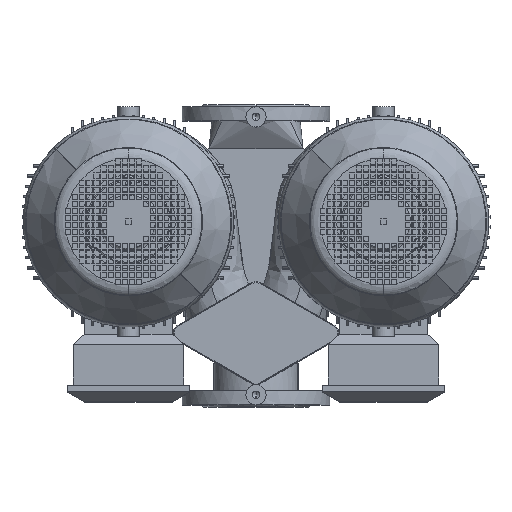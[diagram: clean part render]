
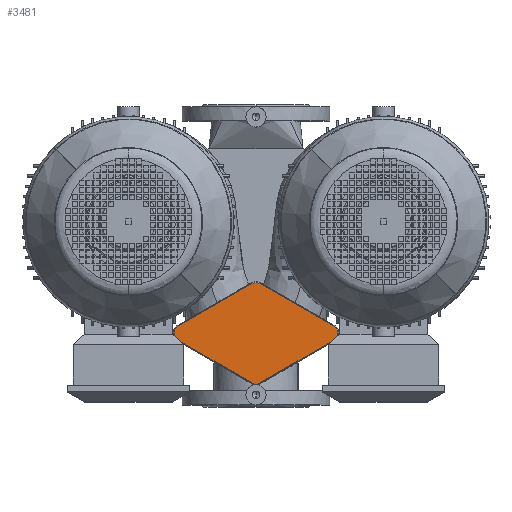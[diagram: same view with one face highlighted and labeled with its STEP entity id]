
A CAD part, top view. The second image highlights one B-rep face of the part: STEP entity #3481.
In plain terms, the highlighted planar face has unit normal (0, 0, 1).
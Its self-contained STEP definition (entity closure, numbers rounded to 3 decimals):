
#3481=ADVANCED_FACE('',(#8903),#8904,.T.);
#8903=FACE_OUTER_BOUND('',#19520,.T.);
#8904=PLANE('',#19521);
#19520=EDGE_LOOP('',(#30785,#30786,#30787,#30788,#30789,#30790,#30791,#30792,#30793,#30794,#30795,#30796));
#19521=AXIS2_PLACEMENT_3D('',#30797,#30798,#30799);
#30785=ORIENTED_EDGE('',*,*,#47523,.F.);
#30786=ORIENTED_EDGE('',*,*,#48237,.F.);
#30787=ORIENTED_EDGE('',*,*,#48224,.F.);
#30788=ORIENTED_EDGE('',*,*,#47534,.F.);
#30789=ORIENTED_EDGE('',*,*,#47538,.F.);
#30790=ORIENTED_EDGE('',*,*,#48220,.F.);
#30791=ORIENTED_EDGE('',*,*,#47544,.F.);
#30792=ORIENTED_EDGE('',*,*,#47548,.F.);
#30793=ORIENTED_EDGE('',*,*,#48216,.F.);
#30794=ORIENTED_EDGE('',*,*,#47553,.F.);
#30795=ORIENTED_EDGE('',*,*,#47527,.F.);
#30796=ORIENTED_EDGE('',*,*,#48235,.F.);
#30797=CARTESIAN_POINT('',(7.,240.124,65.0));
#30798=DIRECTION('',(0.0,0.0,1.0));
#30799=DIRECTION('',(1.0,0.0,0.0));
#47523=EDGE_CURVE('',#54098,#54100,#54101,.T.);
#47527=EDGE_CURVE('',#54104,#54107,#54108,.T.);
#47534=EDGE_CURVE('',#54118,#54120,#54121,.T.);
#47538=EDGE_CURVE('',#54124,#54118,#54127,.T.);
#47544=EDGE_CURVE('',#54135,#54137,#54138,.T.);
#47548=EDGE_CURVE('',#54141,#54135,#54144,.T.);
#47553=EDGE_CURVE('',#54107,#54151,#54152,.T.);
#48216=EDGE_CURVE('',#54151,#54141,#55056,.T.);
#48220=EDGE_CURVE('',#54137,#54124,#55060,.T.);
#48224=EDGE_CURVE('',#54120,#55064,#55065,.T.);
#48235=EDGE_CURVE('',#54100,#54104,#55079,.T.);
#48237=EDGE_CURVE('',#55064,#54098,#55081,.T.);
#54098=VERTEX_POINT('',#63650);
#54100=VERTEX_POINT('',#63663);
#54101=LINE('',#63664,#63665);
#54104=VERTEX_POINT('',#63668);
#54107=VERTEX_POINT('',#63671);
#54108=CIRCLE('',#63672,12.5);
#54118=VERTEX_POINT('',#63683);
#54120=VERTEX_POINT('',#63685);
#54121=LINE('',#63686,#63687);
#54124=VERTEX_POINT('',#63699);
#54127=CIRCLE('',#63702,12.5);
#54135=VERTEX_POINT('',#63711);
#54137=VERTEX_POINT('',#63713);
#54138=LINE('',#63714,#63715);
#54141=VERTEX_POINT('',#63718);
#54144=CIRCLE('',#63721,12.5);
#54151=VERTEX_POINT('',#63729);
#54152=LINE('',#63730,#63731);
#55056=CIRCLE('',#66497,12.5);
#55060=CIRCLE('',#66501,12.5);
#55064=VERTEX_POINT('',#66514);
#55065=CIRCLE('',#66515,14.0);
#55079=CIRCLE('',#66533,12.5);
#55081=CIRCLE('',#66535,14.0);
#63650=CARTESIAN_POINT('',(0.79,241.978,65.0));
#63663=CARTESIAN_POINT('',(115.25,175.894,65.0));
#63664=CARTESIAN_POINT('',(6.25,238.825,65.0));
#63665=VECTOR('',#82610,1.0);
#63668=CARTESIAN_POINT('',(121.5,165.069,65.0));
#63671=CARTESIAN_POINT('',(115.25,154.244,65.0));
#63672=AXIS2_PLACEMENT_3D('',#82617,#82618,#82619);
#63683=CARTESIAN_POINT('',(-115.25,175.894,65.0));
#63685=CARTESIAN_POINT('',(-0.79,241.978,65.0));
#63686=CARTESIAN_POINT('',(-55.5,210.391,65.0));
#63687=VECTOR('',#82633,1.);
#63699=CARTESIAN_POINT('',(-121.5,165.069,65.0));
#63702=AXIS2_PLACEMENT_3D('',#82637,#82638,#82639);
#63711=CARTESIAN_POINT('',(-6.25,91.312,65.0));
#63713=CARTESIAN_POINT('',(-115.25,154.244,65.0));
#63714=CARTESIAN_POINT('',(-33.5,107.045,65.0));
#63715=VECTOR('',#82650,1.);
#63718=CARTESIAN_POINT('',(0.,89.638,65.0));
#63721=AXIS2_PLACEMENT_3D('',#82657,#82658,#82659);
#63729=CARTESIAN_POINT('',(6.25,91.312,65.0));
#63730=CARTESIAN_POINT('',(93.25,141.542,65.0));
#63731=VECTOR('',#82667,1.0);
#66497=AXIS2_PLACEMENT_3D('',#83105,#83106,#83107);
#66501=AXIS2_PLACEMENT_3D('',#83111,#83112,#83113);
#66514=CARTESIAN_POINT('',(0.,242.0,65.0));
#66515=AXIS2_PLACEMENT_3D('',#83114,#83115,#83116);
#66533=AXIS2_PLACEMENT_3D('',#83130,#83131,#83132);
#66535=AXIS2_PLACEMENT_3D('',#83133,#83134,#83135);
#82610=DIRECTION('',(0.866,-0.5,0.0));
#82617=CARTESIAN_POINT('',(109.0,165.069,65.0));
#82618=DIRECTION('',(0.0,0.0,-1.0));
#82619=DIRECTION('',(1.0,0.0,0.0));
#82633=DIRECTION('',(0.866,0.5,0.0));
#82637=CARTESIAN_POINT('',(-109.0,165.069,65.0));
#82638=DIRECTION('',(0.0,0.0,-1.0));
#82639=DIRECTION('',(-1.0,0.0,0.0));
#82650=DIRECTION('',(-0.866,0.5,0.0));
#82657=CARTESIAN_POINT('',(0.,102.138,65.0));
#82658=DIRECTION('',(0.0,0.0,-1.0));
#82659=DIRECTION('',(0.,-1.0,0.0));
#82667=DIRECTION('',(-0.866,-0.5,0.0));
#83105=CARTESIAN_POINT('',(0.,102.138,65.0));
#83106=DIRECTION('',(0.0,0.0,-1.0));
#83107=DIRECTION('',(0.,-1.0,0.0));
#83111=CARTESIAN_POINT('',(-109.0,165.069,65.0));
#83112=DIRECTION('',(0.0,0.0,-1.0));
#83113=DIRECTION('',(-1.0,0.0,0.0));
#83114=CARTESIAN_POINT('',(0.,228.0,65.0));
#83115=DIRECTION('',(0.0,0.0,-1.0));
#83116=DIRECTION('',(0.5,0.866,0.0));
#83130=CARTESIAN_POINT('',(109.0,165.069,65.0));
#83131=DIRECTION('',(0.0,0.0,-1.0));
#83132=DIRECTION('',(1.0,0.0,0.0));
#83133=CARTESIAN_POINT('',(0.,228.0,65.0));
#83134=DIRECTION('',(0.0,0.0,-1.0));
#83135=DIRECTION('',(0.5,0.866,0.0));
